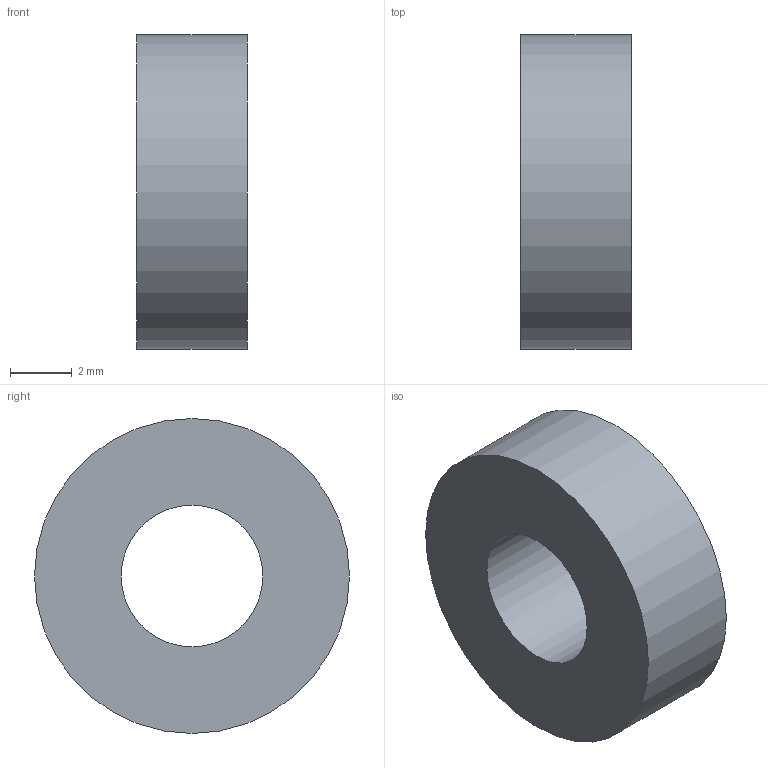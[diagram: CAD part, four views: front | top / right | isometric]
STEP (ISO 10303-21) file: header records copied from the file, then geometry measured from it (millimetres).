
FILE_DESCRIPTION(('Open CASCADE Model'),'2;1');
FILE_NAME('Open CASCADE Shape Model','2026-09-09T10:24:07',('Author'),( 'Open CASCADE'),'Open CASCADE STEP processor 7.8','Open CASCADE 7.8' ,'Unknown');
FILE_SCHEMA(('AUTOMOTIVE_DESIGN { 1 0 10303 214 1 1 1 1 }'));
Length unit declared in the file: millimetre
Products named in the file (1): Open CASCADE STEP translator 7.8 17
Bounding box: 3.56 x 10.16 x 10.16 mm (x, y, z)
Volume: 229.9 mm3; surface area: 293.9 mm2
Topology: 1 solids, 1 shells, 4 faces, 6 edges, 4 vertices
Faces by surface type: cylinder 2, plane 2
Full cylindrical faces by diameter (mm): 4.572 x1, 10.16 x1
Entity records: 186 total; most frequent: DIRECTION 32, CARTESIAN_POINT 27, ORIENTED_EDGE 12, PCURVE 12, DEFINITIONAL_REPRESENTATION 12, LINE 10, VECTOR 10, AXIS2_PLACEMENT_3D 9
